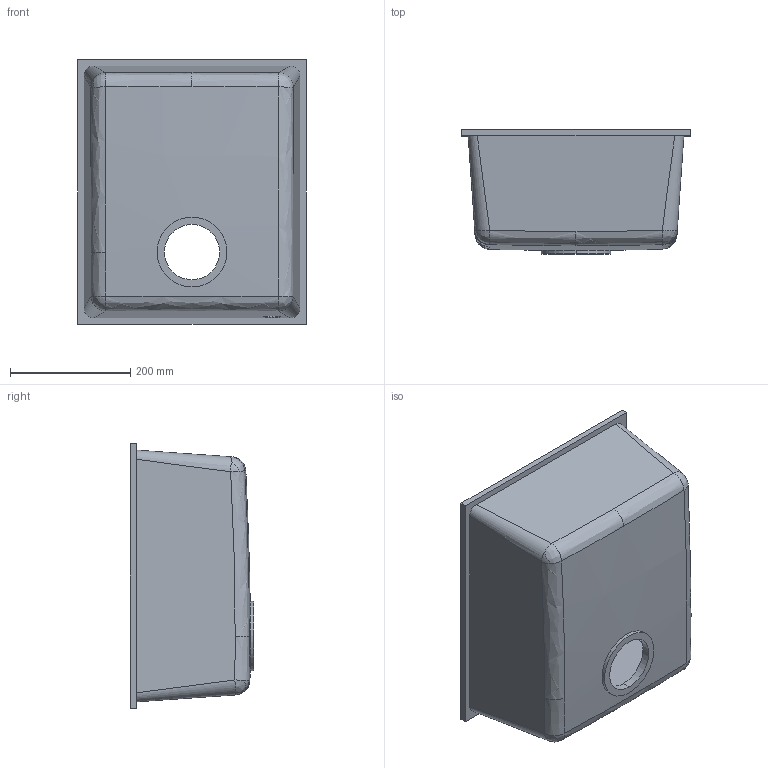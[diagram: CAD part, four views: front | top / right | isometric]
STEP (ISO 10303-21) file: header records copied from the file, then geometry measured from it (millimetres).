
FILE_DESCRIPTION (( 'STEP AP203' ), '1' );
FILE_NAME ('Quadra 100_sottotop.STEP', '2018-10-11T06:55:33', ( '' ), ( '' ), 'SwSTEP 2.0', 'SolidWorks 2013', '' );
FILE_SCHEMA (( 'CONFIG_CONTROL_DESIGN' ));
Length unit declared in the file: millimetre
Products named in the file (1): Quadra 100_sottotop
Bounding box: 380 x 205.79 x 440 mm (x, y, z)
Volume: 4001261.4 mm3; surface area: 818054.4 mm2
Topology: 1 solids, 1 shells, 69 faces, 154 edges, 90 vertices
Faces by surface type: bspline 42, plane 15, cylinder 10, cone 2
Entity records: 4754 total; most frequent: CARTESIAN_POINT 3368, ORIENTED_EDGE 308, DIRECTION 232, EDGE_CURVE 154, AXIS2_PLACEMENT_3D 100, VERTEX_POINT 90, EDGE_LOOP 76, CIRCLE 72
